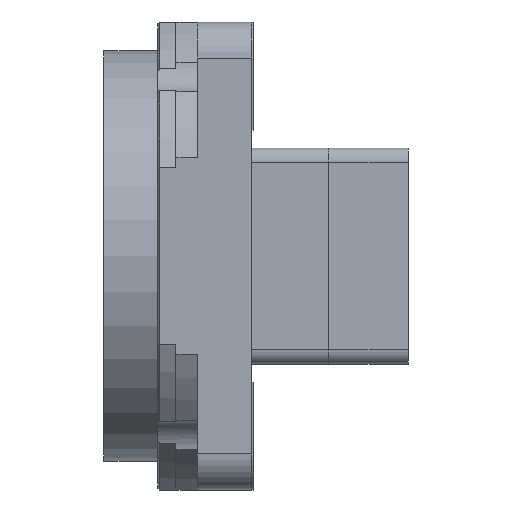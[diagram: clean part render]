
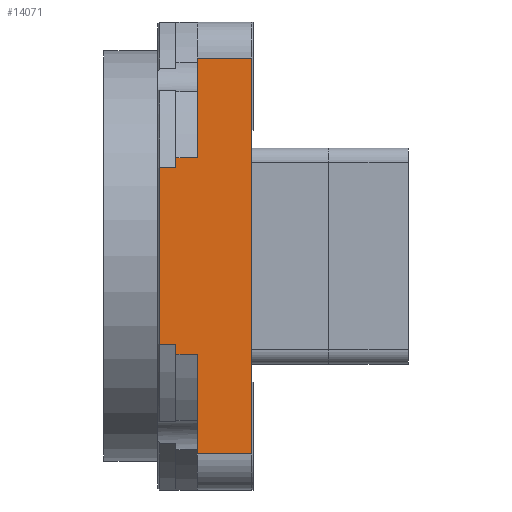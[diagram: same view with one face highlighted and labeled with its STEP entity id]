
A CAD part, left-side view. The second image highlights one B-rep face of the part: STEP entity #14071.
In plain terms, the highlighted planar face has unit normal (-1, 0, 0).
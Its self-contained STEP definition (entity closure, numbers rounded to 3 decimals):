
#628 = CARTESIAN_POINT ( 'NONE',  ( -65., 25.5, 24.602 ) ) ;
#648 = CARTESIAN_POINT ( 'NONE',  ( -65., 21., -27.299 ) ) ;
#654 = CARTESIAN_POINT ( 'NONE',  ( -65., 15., -55. ) ) ;
#674 = CARTESIAN_POINT ( 'NONE',  ( -65., 15., -27.299 ) ) ;
#679 = CARTESIAN_POINT ( 'NONE',  ( -65., 25.5, -24.602 ) ) ;
#688 = CARTESIAN_POINT ( 'NONE',  ( -65., 21., -24.602 ) ) ;
#3906 = EDGE_CURVE ( 'NONE', #12821, #12793, #10870, .T. ) ;
#3919 = EDGE_CURVE ( 'NONE', #12812, #12821, #10877, .T. ) ;
#3921 = EDGE_CURVE ( 'NONE', #12845, #12839, #10861, .T. ) ;
#3923 = EDGE_CURVE ( 'NONE', #12737, #12847, #10885, .T. ) ;
#3938 = EDGE_CURVE ( 'NONE', #12769, #12737, #10931, .T. ) ;
#3940 = EDGE_CURVE ( 'NONE', #12847, #12846, #10919, .T. ) ;
#3945 = EDGE_CURVE ( 'NONE', #12793, #12787, #10895, .T. ) ;
#3950 = EDGE_CURVE ( 'NONE', #12846, #12826, #10906, .T. ) ;
#3954 = EDGE_CURVE ( 'NONE', #12826, #12845, #10936, .T. ) ;
#3972 = EDGE_CURVE ( 'NONE', #12787, #12769, #10965, .T. ) ;
#4869 = CARTESIAN_POINT ( 'NONE',  ( -65., 0., -16.916 ) ) ;
#4871 = DIRECTION ( 'NONE',  ( 0., 0., -1. ) ) ;
#5562 = DIRECTION ( 'NONE',  ( 0., 0., -1. ) ) ;
#5581 = DIRECTION ( 'NONE',  ( 1., 0., 0. ) ) ;
#5582 = PLANE ( 'NONE',  #13125 ) ;
#5590 = CARTESIAN_POINT ( 'NONE',  ( -65., 15., -55. ) ) ;
#6958 = ORIENTED_EDGE ( 'NONE', *, *, #3923, .F. ) ;
#6959 = ORIENTED_EDGE ( 'NONE', *, *, #3938, .F. ) ;
#6977 = ORIENTED_EDGE ( 'NONE', *, *, #3921, .F. ) ;
#6981 = ORIENTED_EDGE ( 'NONE', *, *, #3945, .F. ) ;
#6988 = ORIENTED_EDGE ( 'NONE', *, *, #3950, .F. ) ;
#6993 = ORIENTED_EDGE ( 'NONE', *, *, #3972, .F. ) ;
#6996 = ORIENTED_EDGE ( 'NONE', *, *, #3919, .F. ) ;
#7007 = ORIENTED_EDGE ( 'NONE', *, *, #3906, .F. ) ;
#7009 = ORIENTED_EDGE ( 'NONE', *, *, #13361, .F. ) ;
#7018 = ORIENTED_EDGE ( 'NONE', *, *, #3940, .F. ) ;
#7019 = ORIENTED_EDGE ( 'NONE', *, *, #13319, .F. ) ;
#7040 = ORIENTED_EDGE ( 'NONE', *, *, #3954, .F. ) ;
#7304 = EDGE_LOOP ( 'NONE', ( #6977, #7040, #6988, #7018, #6958, #6959, #6993, #6981, #7007, #6996, #7019, #7009 ) ) ;
#9864 = DIRECTION ( 'NONE',  ( 0., 1., 0. ) ) ;
#9891 = CARTESIAN_POINT ( 'NONE',  ( -65., 15., -27.299 ) ) ;
#9899 = DIRECTION ( 'NONE',  ( 0., 0., 1. ) ) ;
#9905 = CARTESIAN_POINT ( 'NONE',  ( -65., 15., -55. ) ) ;
#9908 = CARTESIAN_POINT ( 'NONE',  ( -65., 15., 55. ) ) ;
#9913 = DIRECTION ( 'NONE',  ( 0., -1., 0. ) ) ;
#9914 = CARTESIAN_POINT ( 'NONE',  ( -65., 15., 24.602 ) ) ;
#9936 = DIRECTION ( 'NONE',  ( 0., -1., 0. ) ) ;
#9941 = CARTESIAN_POINT ( 'NONE',  ( -65., 25.5, -55. ) ) ;
#9944 = DIRECTION ( 'NONE',  ( 0., 0., 1. ) ) ;
#9945 = DIRECTION ( 'NONE',  ( 0., 0., 1. ) ) ;
#9949 = CARTESIAN_POINT ( 'NONE',  ( -65., 21., -55. ) ) ;
#9965 = CARTESIAN_POINT ( 'NONE',  ( -65., 21., -55. ) ) ;
#9992 = CARTESIAN_POINT ( 'NONE',  ( -65., 15., 27.299 ) ) ;
#9994 = DIRECTION ( 'NONE',  ( 0., 0., 1. ) ) ;
#10000 = DIRECTION ( 'NONE',  ( 0., 0., 1. ) ) ;
#10004 = DIRECTION ( 'NONE',  ( 0., -1., 0. ) ) ;
#10006 = CARTESIAN_POINT ( 'NONE',  ( -65., 15., -55. ) ) ;
#10037 = CARTESIAN_POINT ( 'NONE',  ( -65., 15., -24.602 ) ) ;
#10048 = DIRECTION ( 'NONE',  ( 0., 1., 0. ) ) ;
#10851 = VECTOR ( 'NONE', #9864, 1000. ) ;
#10855 = VECTOR ( 'NONE', #9899, 1000. ) ;
#10861 = LINE ( 'NONE', #9908, #10879 ) ;
#10870 = LINE ( 'NONE', #9891, #10851 ) ;
#10877 = LINE ( 'NONE', #9905, #10855 ) ;
#10879 = VECTOR ( 'NONE', #9913, 1000. ) ;
#10885 = LINE ( 'NONE', #9914, #10888 ) ;
#10888 = VECTOR ( 'NONE', #9936, 1000. ) ;
#10895 = LINE ( 'NONE', #9949, #10897 ) ;
#10897 = VECTOR ( 'NONE', #9994, 1000. ) ;
#10906 = LINE ( 'NONE', #9992, #10924 ) ;
#10917 = VECTOR ( 'NONE', #9944, 1000. ) ;
#10919 = LINE ( 'NONE', #9965, #10933 ) ;
#10924 = VECTOR ( 'NONE', #10004, 1000. ) ;
#10931 = LINE ( 'NONE', #9941, #10917 ) ;
#10933 = VECTOR ( 'NONE', #9945, 1000. ) ;
#10935 = VECTOR ( 'NONE', #10000, 1000. ) ;
#10936 = LINE ( 'NONE', #10006, #10935 ) ;
#10965 = LINE ( 'NONE', #10037, #10970 ) ;
#10970 = VECTOR ( 'NONE', #10048, 1000. ) ;
#10971 = VECTOR ( 'NONE', #11934, 1000. ) ;
#10993 = LINE ( 'NONE', #11932, #10971 ) ;
#11017 = VECTOR ( 'NONE', #4871, 1000. ) ;
#11023 = LINE ( 'NONE', #4869, #11017 ) ;
#11623 = FACE_OUTER_BOUND ( 'NONE', #7304, .T. ) ;
#11881 = CARTESIAN_POINT ( 'NONE',  ( -65., 21., 27.299 ) ) ;
#11924 = CARTESIAN_POINT ( 'NONE',  ( -65., 0., -55. ) ) ;
#11929 = CARTESIAN_POINT ( 'NONE',  ( -65., 21., 24.602 ) ) ;
#11932 = CARTESIAN_POINT ( 'NONE',  ( -65., 15., -55. ) ) ;
#11934 = DIRECTION ( 'NONE',  ( 0., 1., 0. ) ) ;
#11999 = CARTESIAN_POINT ( 'NONE',  ( -65., 15., 27.299 ) ) ;
#12011 = CARTESIAN_POINT ( 'NONE',  ( -65., 0., 55. ) ) ;
#12018 = CARTESIAN_POINT ( 'NONE',  ( -65., 15., 55. ) ) ;
#12737 = VERTEX_POINT ( 'NONE', #628 ) ;
#12769 = VERTEX_POINT ( 'NONE', #679 ) ;
#12787 = VERTEX_POINT ( 'NONE', #688 ) ;
#12793 = VERTEX_POINT ( 'NONE', #648 ) ;
#12812 = VERTEX_POINT ( 'NONE', #654 ) ;
#12821 = VERTEX_POINT ( 'NONE', #674 ) ;
#12826 = VERTEX_POINT ( 'NONE', #11999 ) ;
#12839 = VERTEX_POINT ( 'NONE', #12011 ) ;
#12845 = VERTEX_POINT ( 'NONE', #12018 ) ;
#12846 = VERTEX_POINT ( 'NONE', #11881 ) ;
#12847 = VERTEX_POINT ( 'NONE', #11929 ) ;
#12858 = VERTEX_POINT ( 'NONE', #11924 ) ;
#13125 = AXIS2_PLACEMENT_3D ( 'NONE', #5590, #5581, #5562 ) ;
#13319 = EDGE_CURVE ( 'NONE', #12858, #12812, #10993, .T. ) ;
#13361 = EDGE_CURVE ( 'NONE', #12839, #12858, #11023, .T. ) ;
#14071 = ADVANCED_FACE ( 'NONE', ( #11623 ), #5582, .F. ) ;
